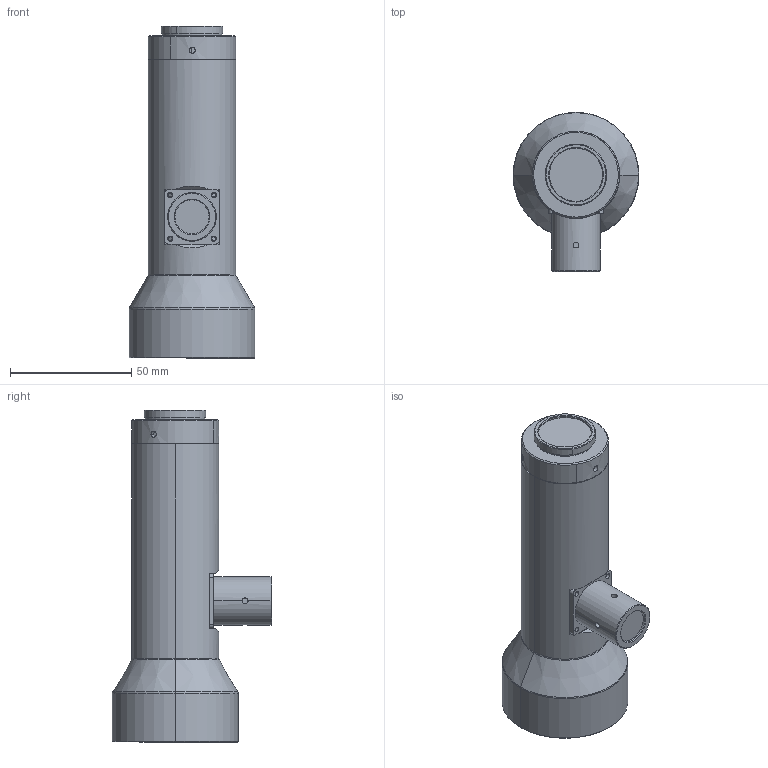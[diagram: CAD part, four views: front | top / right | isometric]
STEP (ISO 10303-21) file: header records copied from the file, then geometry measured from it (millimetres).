
FILE_DESCRIPTION (( 'STEP AP203' ), '1' );
FILE_NAME ('WWK063-110C-111V3.STEP', '2023-03-23T09:54:45', ( '' ), ( '' ), 'SwSTEP 2.0', 'SolidWorks 2017', '' );
FILE_SCHEMA (( 'CONFIG_CONTROL_DESIGN' ));
Length unit declared in the file: millimetre
Products named in the file (1): WWK063-110C-111V3
Bounding box: 52 x 65.9 x 137.16 mm (x, y, z)
Volume: 171597.5 mm3; surface area: 22754.4 mm2
Topology: 1 solids, 4 shells, 144 faces, 312 edges, 196 vertices
Faces by surface type: cylinder 79, plane 35, cone 26, torus 4
Entity records: 4555 total; most frequent: CARTESIAN_POINT 1287, DIRECTION 700, ORIENTED_EDGE 624, EDGE_CURVE 312, AXIS2_PLACEMENT_3D 289, VERTEX_POINT 196, EDGE_LOOP 170, FACE_OUTER_BOUND 144
